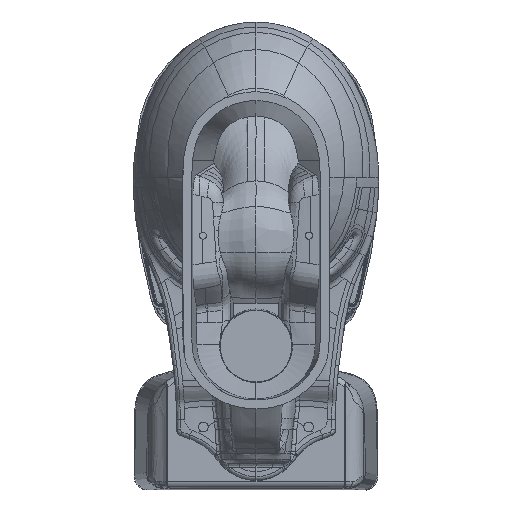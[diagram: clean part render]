
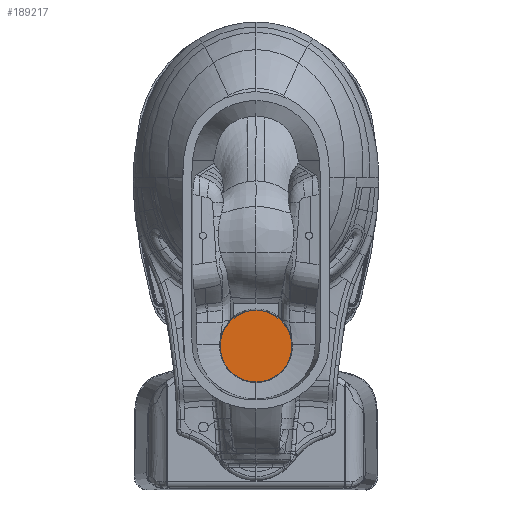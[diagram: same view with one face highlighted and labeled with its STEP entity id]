
A CAD part, front view. The second image highlights one B-rep face of the part: STEP entity #189217.
In plain terms, the highlighted planar face has unit normal (0, -1, 0).
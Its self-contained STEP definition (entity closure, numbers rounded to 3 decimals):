
#30329 = DIRECTION ( 'NONE',  ( 0., 0., 1. ) ) ;
#48976 = FACE_OUTER_BOUND ( 'NONE', #646280, .T. ) ;
#57914 = AXIS2_PLACEMENT_3D ( 'NONE', #573822, #94847, #91368 ) ;
#83013 = CARTESIAN_POINT ( 'NONE',  ( -1000.001, 100.603, 50.777 ) ) ;
#86605 = CARTESIAN_POINT ( 'NONE',  ( -1000.001, 100.603, 103.779 ) ) ;
#91368 = DIRECTION ( 'NONE',  ( 0., 0., -1. ) ) ;
#94847 = DIRECTION ( 'NONE',  ( 0., -1., 0. ) ) ;
#131066 = CIRCLE ( 'NONE', #255245, 53.002 ) ;
#162095 = CARTESIAN_POINT ( 'NONE',  ( -1000.001, 100.603, 156.781 ) ) ;
#189217 = ADVANCED_FACE ( 'NONE', ( #48976 ), #263763, .T. ) ;
#212609 = DIRECTION ( 'NONE',  ( 0., 0., 1. ) ) ;
#255245 = AXIS2_PLACEMENT_3D ( 'NONE', #86605, #343827, #30329 ) ;
#263763 = PLANE ( 'NONE',  #57914 ) ;
#274953 = VERTEX_POINT ( 'NONE', #162095 ) ;
#343827 = DIRECTION ( 'NONE',  ( 0., 1., 0. ) ) ;
#347042 = EDGE_CURVE ( 'NONE', #694631, #274953, #131066, .T. ) ;
#531487 = ORIENTED_EDGE ( 'NONE', *, *, #567665, .F. ) ;
#567665 = EDGE_CURVE ( 'NONE', #274953, #694631, #684049, .T. ) ;
#573822 = CARTESIAN_POINT ( 'NONE',  ( -1058.303, 100.603, 162.081 ) ) ;
#582421 = CARTESIAN_POINT ( 'NONE',  ( -1000.001, 100.603, 103.779 ) ) ;
#588286 = ORIENTED_EDGE ( 'NONE', *, *, #347042, .F. ) ;
#589342 = DIRECTION ( 'NONE',  ( 0., 1., 0. ) ) ;
#646280 = EDGE_LOOP ( 'NONE', ( #531487, #588286 ) ) ;
#650311 = AXIS2_PLACEMENT_3D ( 'NONE', #582421, #589342, #212609 ) ;
#684049 = CIRCLE ( 'NONE', #650311, 53.002 ) ;
#694631 = VERTEX_POINT ( 'NONE', #83013 ) ;
